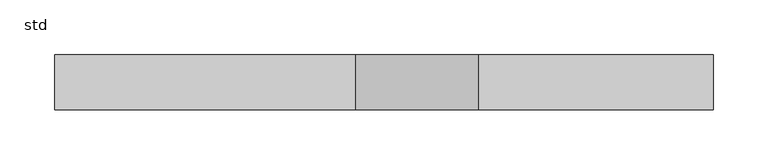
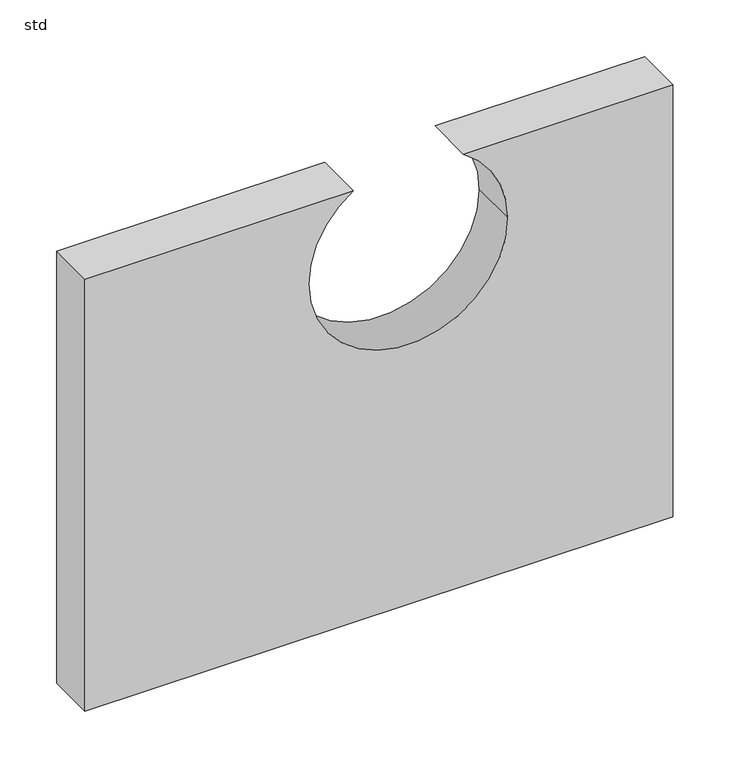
"""IFC4 building model written with IfcOpenShell, lengths in millimetres: unitary equipment geometry, Z_ME_UN_Q-Bic_Plus_Connection_Plate_Wavin_(nested) : std."""

from ifc_helpers import new_model, si_unit, point, frame, frame_2d, origin, place, context, project, spatial, polyline, circle_curve, trimmed, segment, composite_curve, outline, extrude, source, transform, mapped, element, save


def std_fc4b4af1(model_context):
    return source(origin(), model_context, "Body", "SweptSolid", [
        extrude(outline(composite_curve([segment(polyline([(92.0, 0.0), (92.0, 600.0), (558.0, 600.0), (558.0, 386.2316637)]), True, "CONTINUOUS"), segment(trimmed(circle_curve(frame_2d((473.5, 330.0)), 101.5), [point((558.0, 386.2316637))], [point((473.5, 431.5))], True, "CARTESIAN"), True, "CONTINUOUS"), segment(trimmed(circle_curve(frame_2d((473.5, 330.0)), 101.5), [point((473.5, 431.5))], [point((473.5, 228.5))], True, "CARTESIAN"), True, "CONTINUOUS"), segment(trimmed(circle_curve(frame_2d((473.5, 330.0)), 101.5), [point((473.5, 228.5))], [point((558.0, 273.7683363))], True, "CARTESIAN"), True, "CONTINUOUS"), segment(polyline([(558.0, 273.7683363), (558.0, 0.0), (92.0, 0.0)]), True, "CONTINUOUS")], self_intersect=False)), frame((0.0, 0.0, 0.0), z_axis=(0.0, 1.0, 0.0), x_axis=(0.0, 0.0, 1.0)), (0.0, 0.0, 1.0), 50.0),
    ])


if __name__ == "__main__":
    model = new_model("IFC4")
    model_context = context("Model", 3, world=origin())
    ifc_project = project(units=[si_unit("LENGTHUNIT", "METRE", prefix="MILLI")], contexts=[model_context])
    site = spatial("IfcSite", under=ifc_project)
    building = spatial("IfcBuilding", under=site)
    placement = place(None, origin())
    std_shape = std_fc4b4af1(model_context)
    element("IfcUnitaryEquipment", 1, ObjectType="Z_ME_UN_Q-Bic_Plus_Connection_Plate_Wavin_(nested) : std", at=placement, inside=building, context=model_context, shape_type="MappedRepresentation", body=[
        mapped(std_shape, transform((0.0, 0.0, 0.0), x_axis=(1.0, 0.0, 0.0), y_axis=(0.0, 1.0, 0.0), z_axis=(0.0, 0.0, 1.0))),
    ])
    save(model, "model.ifc")
